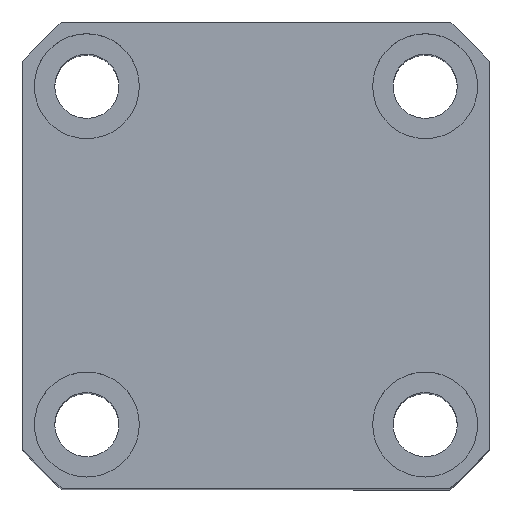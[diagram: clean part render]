
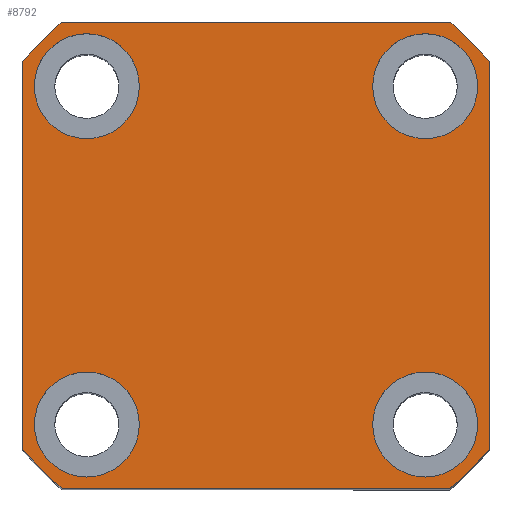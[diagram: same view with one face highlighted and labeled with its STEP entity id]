
A CAD part, top view. The second image highlights one B-rep face of the part: STEP entity #8792.
In plain terms, the highlighted planar face has unit normal (0, 0, 1).
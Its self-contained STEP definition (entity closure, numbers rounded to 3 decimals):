
#6 = CARTESIAN_POINT ( 'NONE',  ( 20., -29., 65. ) ) ;
#60 = LINE ( 'NONE', #430, #8629 ) ;
#177 = AXIS2_PLACEMENT_3D ( 'NONE', #7549, #8714, #12001 ) ;
#430 = CARTESIAN_POINT ( 'NONE',  ( -33.226, -40., 65. ) ) ;
#598 = CARTESIAN_POINT ( 'NONE',  ( 0., 0., 65. ) ) ;
#630 = DIRECTION ( 'NONE',  ( 1., 0., 0. ) ) ;
#738 = CARTESIAN_POINT ( 'NONE',  ( -33.226, 40., 65. ) ) ;
#814 = CARTESIAN_POINT ( 'NONE',  ( 29., -29., 65. ) ) ;
#907 = EDGE_CURVE ( 'NONE', #4609, #7717, #9442, .T. ) ;
#951 = VERTEX_POINT ( 'NONE', #5293 ) ;
#1007 = VERTEX_POINT ( 'NONE', #6 ) ;
#1140 = LINE ( 'NONE', #9297, #5055 ) ;
#1145 = VERTEX_POINT ( 'NONE', #10970 ) ;
#1160 = DIRECTION ( 'NONE',  ( 1., 0., 0. ) ) ;
#1301 = CARTESIAN_POINT ( 'NONE',  ( 0., 0., 65. ) ) ;
#1402 = AXIS2_PLACEMENT_3D ( 'NONE', #3291, #14145, #1160 ) ;
#1487 = AXIS2_PLACEMENT_3D ( 'NONE', #4705, #9264, #5927 ) ;
#1514 = VERTEX_POINT ( 'NONE', #738 ) ;
#1562 = CARTESIAN_POINT ( 'NONE',  ( 0., 0., 65. ) ) ;
#1576 = AXIS2_PLACEMENT_3D ( 'NONE', #6024, #3978, #10287 ) ;
#1649 = VERTEX_POINT ( 'NONE', #5199 ) ;
#1695 = VERTEX_POINT ( 'NONE', #8643 ) ;
#1716 = DIRECTION ( 'NONE',  ( 1., 0., 0. ) ) ;
#1949 = DIRECTION ( 'NONE',  ( 1., 0., 0. ) ) ;
#2055 = DIRECTION ( 'NONE',  ( 0., -1., 0. ) ) ;
#2142 = DIRECTION ( 'NONE',  ( 1., 0., 0. ) ) ;
#2264 = VERTEX_POINT ( 'NONE', #13908 ) ;
#2562 = DIRECTION ( 'NONE',  ( -1., 0., 0. ) ) ;
#2658 = ORIENTED_EDGE ( 'NONE', *, *, #11600, .T. ) ;
#2707 = DIRECTION ( 'NONE',  ( 1., 0., 0. ) ) ;
#3040 = EDGE_CURVE ( 'NONE', #1514, #4609, #4507, .T. ) ;
#3174 = DIRECTION ( 'NONE',  ( 0., 0., 1. ) ) ;
#3232 = EDGE_CURVE ( 'NONE', #1649, #7685, #8769, .T. ) ;
#3244 = AXIS2_PLACEMENT_3D ( 'NONE', #814, #14010, #7135 ) ;
#3291 = CARTESIAN_POINT ( 'NONE',  ( -29., 29., 65. ) ) ;
#3348 = FACE_BOUND ( 'NONE', #7657, .T. ) ;
#3513 = VECTOR ( 'NONE', #7790, 1000. ) ;
#3520 = FACE_BOUND ( 'NONE', #11064, .T. ) ;
#3602 = CARTESIAN_POINT ( 'NONE',  ( -40., -33.226, 65. ) ) ;
#3634 = CARTESIAN_POINT ( 'NONE',  ( 40., -33.226, 65. ) ) ;
#3659 = CIRCLE ( 'NONE', #7990, 9. ) ;
#3865 = DIRECTION ( 'NONE',  ( 0., 0., 1. ) ) ;
#3907 = VERTEX_POINT ( 'NONE', #3634 ) ;
#3978 = DIRECTION ( 'NONE',  ( 0., 0., 1. ) ) ;
#4010 = ORIENTED_EDGE ( 'NONE', *, *, #12931, .T. ) ;
#4058 = EDGE_CURVE ( 'NONE', #7717, #2264, #11012, .T. ) ;
#4081 = AXIS2_PLACEMENT_3D ( 'NONE', #1301, #6677, #10060 ) ;
#4122 = EDGE_CURVE ( 'NONE', #951, #1695, #6404, .T. ) ;
#4159 = VERTEX_POINT ( 'NONE', #9063 ) ;
#4384 = VERTEX_POINT ( 'NONE', #8456 ) ;
#4507 = CIRCLE ( 'NONE', #1487, 52. ) ;
#4554 = ORIENTED_EDGE ( 'NONE', *, *, #13798, .F. ) ;
#4562 = CARTESIAN_POINT ( 'NONE',  ( -29., -29., 65. ) ) ;
#4609 = VERTEX_POINT ( 'NONE', #13315 ) ;
#4705 = CARTESIAN_POINT ( 'NONE',  ( 0., 0., 65. ) ) ;
#4935 = ORIENTED_EDGE ( 'NONE', *, *, #10166, .F. ) ;
#5055 = VECTOR ( 'NONE', #2562, 1000. ) ;
#5118 = CARTESIAN_POINT ( 'NONE',  ( -38., 29., 65. ) ) ;
#5199 = CARTESIAN_POINT ( 'NONE',  ( 20., 29., 65. ) ) ;
#5242 = CARTESIAN_POINT ( 'NONE',  ( 29., -29., 65. ) ) ;
#5288 = ORIENTED_EDGE ( 'NONE', *, *, #907, .T. ) ;
#5293 = CARTESIAN_POINT ( 'NONE',  ( -20., -29., 65. ) ) ;
#5639 = DIRECTION ( 'NONE',  ( 0., 0., 1. ) ) ;
#5752 = EDGE_CURVE ( 'NONE', #1695, #951, #12355, .T. ) ;
#5793 = CARTESIAN_POINT ( 'NONE',  ( 38., 29., 65. ) ) ;
#5820 = VERTEX_POINT ( 'NONE', #7150 ) ;
#5891 = EDGE_CURVE ( 'NONE', #1007, #5820, #8621, .T. ) ;
#5895 = FACE_OUTER_BOUND ( 'NONE', #9989, .T. ) ;
#5927 = DIRECTION ( 'NONE',  ( 1., 0., 0. ) ) ;
#6011 = PLANE ( 'NONE',  #13596 ) ;
#6024 = CARTESIAN_POINT ( 'NONE',  ( -29., -29., 65. ) ) ;
#6118 = CIRCLE ( 'NONE', #11042, 52. ) ;
#6404 = CIRCLE ( 'NONE', #13392, 9. ) ;
#6417 = CIRCLE ( 'NONE', #1402, 9. ) ;
#6494 = DIRECTION ( 'NONE',  ( 0., 0., 1. ) ) ;
#6615 = EDGE_CURVE ( 'NONE', #4384, #3907, #6118, .T. ) ;
#6677 = DIRECTION ( 'NONE',  ( 0., 0., 1. ) ) ;
#6953 = FACE_BOUND ( 'NONE', #10700, .T. ) ;
#7135 = DIRECTION ( 'NONE',  ( 1., 0., 0. ) ) ;
#7150 = CARTESIAN_POINT ( 'NONE',  ( 38., -29., 65. ) ) ;
#7338 = ORIENTED_EDGE ( 'NONE', *, *, #4122, .F. ) ;
#7382 = CARTESIAN_POINT ( 'NONE',  ( -40., 33.226, 65. ) ) ;
#7549 = CARTESIAN_POINT ( 'NONE',  ( 29., 29., 65. ) ) ;
#7579 = ORIENTED_EDGE ( 'NONE', *, *, #11266, .F. ) ;
#7645 = AXIS2_PLACEMENT_3D ( 'NONE', #8767, #6494, #11878 ) ;
#7657 = EDGE_LOOP ( 'NONE', ( #7338, #9833 ) ) ;
#7685 = VERTEX_POINT ( 'NONE', #5793 ) ;
#7709 = ORIENTED_EDGE ( 'NONE', *, *, #3040, .T. ) ;
#7717 = VERTEX_POINT ( 'NONE', #3602 ) ;
#7790 = DIRECTION ( 'NONE',  ( 0., 1., 0. ) ) ;
#7990 = AXIS2_PLACEMENT_3D ( 'NONE', #5242, #11638, #1949 ) ;
#8259 = DIRECTION ( 'NONE',  ( 0., 0., 1. ) ) ;
#8456 = CARTESIAN_POINT ( 'NONE',  ( 33.226, -40., 65. ) ) ;
#8605 = CARTESIAN_POINT ( 'NONE',  ( 40., 33.226, 65. ) ) ;
#8621 = CIRCLE ( 'NONE', #3244, 9. ) ;
#8629 = VECTOR ( 'NONE', #630, 1000. ) ;
#8643 = CARTESIAN_POINT ( 'NONE',  ( -38., -29., 65. ) ) ;
#8698 = EDGE_CURVE ( 'NONE', #4159, #1514, #1140, .T. ) ;
#8705 = AXIS2_PLACEMENT_3D ( 'NONE', #12982, #3174, #2142 ) ;
#8714 = DIRECTION ( 'NONE',  ( 0., 0., 1. ) ) ;
#8767 = CARTESIAN_POINT ( 'NONE',  ( 0., 0., 65. ) ) ;
#8769 = CIRCLE ( 'NONE', #9996, 9. ) ;
#8792 = ADVANCED_FACE ( 'NONE', ( #12389, #3348, #3520, #6953, #5895 ), #6011, .T. ) ;
#8995 = VERTEX_POINT ( 'NONE', #8605 ) ;
#9063 = CARTESIAN_POINT ( 'NONE',  ( 33.226, 40., 65. ) ) ;
#9264 = DIRECTION ( 'NONE',  ( 0., 0., 1. ) ) ;
#9297 = CARTESIAN_POINT ( 'NONE',  ( -33.226, 40., 65. ) ) ;
#9398 = ORIENTED_EDGE ( 'NONE', *, *, #14207, .F. ) ;
#9442 = LINE ( 'NONE', #7382, #10458 ) ;
#9589 = ORIENTED_EDGE ( 'NONE', *, *, #13225, .T. ) ;
#9805 = ORIENTED_EDGE ( 'NONE', *, *, #4058, .T. ) ;
#9833 = ORIENTED_EDGE ( 'NONE', *, *, #5752, .F. ) ;
#9989 = EDGE_LOOP ( 'NONE', ( #9589, #12399, #7709, #5288, #9805, #4010, #13417, #2658 ) ) ;
#9996 = AXIS2_PLACEMENT_3D ( 'NONE', #13612, #11506, #2707 ) ;
#10060 = DIRECTION ( 'NONE',  ( 1., 0., 0. ) ) ;
#10080 = VERTEX_POINT ( 'NONE', #5118 ) ;
#10166 = EDGE_CURVE ( 'NONE', #1145, #10080, #6417, .T. ) ;
#10287 = DIRECTION ( 'NONE',  ( 1., 0., 0. ) ) ;
#10367 = ORIENTED_EDGE ( 'NONE', *, *, #3232, .F. ) ;
#10458 = VECTOR ( 'NONE', #2055, 1000. ) ;
#10490 = LINE ( 'NONE', #11154, #3513 ) ;
#10700 = EDGE_LOOP ( 'NONE', ( #4554, #10367 ) ) ;
#10970 = CARTESIAN_POINT ( 'NONE',  ( -20., 29., 65. ) ) ;
#11012 = CIRCLE ( 'NONE', #4081, 52. ) ;
#11042 = AXIS2_PLACEMENT_3D ( 'NONE', #598, #8259, #1716 ) ;
#11064 = EDGE_LOOP ( 'NONE', ( #4935, #7579 ) ) ;
#11154 = CARTESIAN_POINT ( 'NONE',  ( 40., 33.226, 65. ) ) ;
#11266 = EDGE_CURVE ( 'NONE', #10080, #1145, #12062, .T. ) ;
#11411 = DIRECTION ( 'NONE',  ( 1., 0., 0. ) ) ;
#11423 = ORIENTED_EDGE ( 'NONE', *, *, #5891, .F. ) ;
#11506 = DIRECTION ( 'NONE',  ( 0., 0., 1. ) ) ;
#11600 = EDGE_CURVE ( 'NONE', #3907, #8995, #10490, .T. ) ;
#11638 = DIRECTION ( 'NONE',  ( 0., 0., 1. ) ) ;
#11686 = CIRCLE ( 'NONE', #177, 9. ) ;
#11878 = DIRECTION ( 'NONE',  ( 1., 0., 0. ) ) ;
#12001 = DIRECTION ( 'NONE',  ( 1., 0., 0. ) ) ;
#12062 = CIRCLE ( 'NONE', #8705, 9. ) ;
#12355 = CIRCLE ( 'NONE', #1576, 9. ) ;
#12389 = FACE_BOUND ( 'NONE', #14132, .T. ) ;
#12399 = ORIENTED_EDGE ( 'NONE', *, *, #8698, .T. ) ;
#12931 = EDGE_CURVE ( 'NONE', #2264, #4384, #60, .T. ) ;
#12982 = CARTESIAN_POINT ( 'NONE',  ( -29., 29., 65. ) ) ;
#13225 = EDGE_CURVE ( 'NONE', #8995, #4159, #13395, .T. ) ;
#13288 = DIRECTION ( 'NONE',  ( 1., 0., 0. ) ) ;
#13315 = CARTESIAN_POINT ( 'NONE',  ( -40., 33.226, 65. ) ) ;
#13392 = AXIS2_PLACEMENT_3D ( 'NONE', #4562, #5639, #13288 ) ;
#13395 = CIRCLE ( 'NONE', #7645, 52. ) ;
#13417 = ORIENTED_EDGE ( 'NONE', *, *, #6615, .T. ) ;
#13596 = AXIS2_PLACEMENT_3D ( 'NONE', #1562, #3865, #11411 ) ;
#13612 = CARTESIAN_POINT ( 'NONE',  ( 29., 29., 65. ) ) ;
#13798 = EDGE_CURVE ( 'NONE', #7685, #1649, #11686, .T. ) ;
#13908 = CARTESIAN_POINT ( 'NONE',  ( -33.226, -40., 65. ) ) ;
#14010 = DIRECTION ( 'NONE',  ( 0., 0., 1. ) ) ;
#14132 = EDGE_LOOP ( 'NONE', ( #9398, #11423 ) ) ;
#14145 = DIRECTION ( 'NONE',  ( 0., 0., 1. ) ) ;
#14207 = EDGE_CURVE ( 'NONE', #5820, #1007, #3659, .T. ) ;
